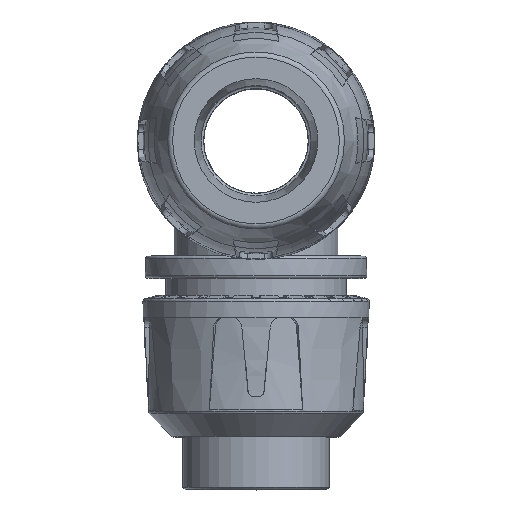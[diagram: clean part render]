
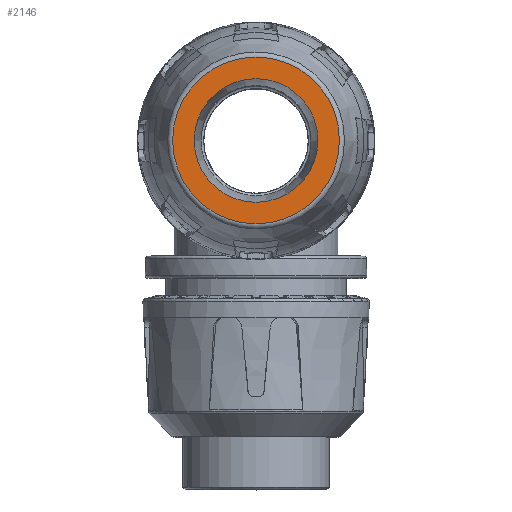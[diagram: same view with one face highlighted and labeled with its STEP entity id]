
A CAD part, top view. The second image highlights one B-rep face of the part: STEP entity #2146.
In plain terms, the highlighted planar face has unit normal (0, 0, 1).
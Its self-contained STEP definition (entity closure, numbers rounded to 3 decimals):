
#2146 = ADVANCED_FACE( '', ( #4447, #4448 ), #4449, .F. );
#4447 = FACE_BOUND( '', #10605, .T. );
#4448 = FACE_OUTER_BOUND( '', #10606, .T. );
#4449 = PLANE( '', #10607 );
#10605 = EDGE_LOOP( '', ( #17579 ) );
#10606 = EDGE_LOOP( '', ( #17580 ) );
#10607 = AXIS2_PLACEMENT_3D( '', #17581, #17582, #17583 );
#17579 = ORIENTED_EDGE( '', *, *, #20895, .T. );
#17580 = ORIENTED_EDGE( '', *, *, #19529, .T. );
#17581 = CARTESIAN_POINT( '', ( 16.304, 0., 14.78 ) );
#17582 = DIRECTION( '', ( 0., 0., -1. ) );
#17583 = DIRECTION( '', ( 1., 0., 0. ) );
#19529 = EDGE_CURVE( '', #23050, #23050, #23051, .F. );
#20895 = EDGE_CURVE( '', #24837, #24837, #24838, .T. );
#23050 = VERTEX_POINT( '', #29398 );
#23051 = CIRCLE( '', #29399, 15.591 );
#24837 = VERTEX_POINT( '', #33930 );
#24838 = CIRCLE( '', #33931, 11.556 );
#29398 = CARTESIAN_POINT( '', ( -15.591, 0., 14.78 ) );
#29399 = AXIS2_PLACEMENT_3D( '', #35645, #35646, #35647 );
#33930 = CARTESIAN_POINT( '', ( -11.556, 0., 14.78 ) );
#33931 = AXIS2_PLACEMENT_3D( '', #36943, #36944, #36945 );
#35645 = CARTESIAN_POINT( '', ( 0., 0., 14.78 ) );
#35646 = DIRECTION( '', ( 0., 0., -1. ) );
#35647 = DIRECTION( '', ( -1., 0., 0. ) );
#36943 = CARTESIAN_POINT( '', ( 0., 0., 14.78 ) );
#36944 = DIRECTION( '', ( 0., 0., -1. ) );
#36945 = DIRECTION( '', ( -1., 0., 0. ) );
